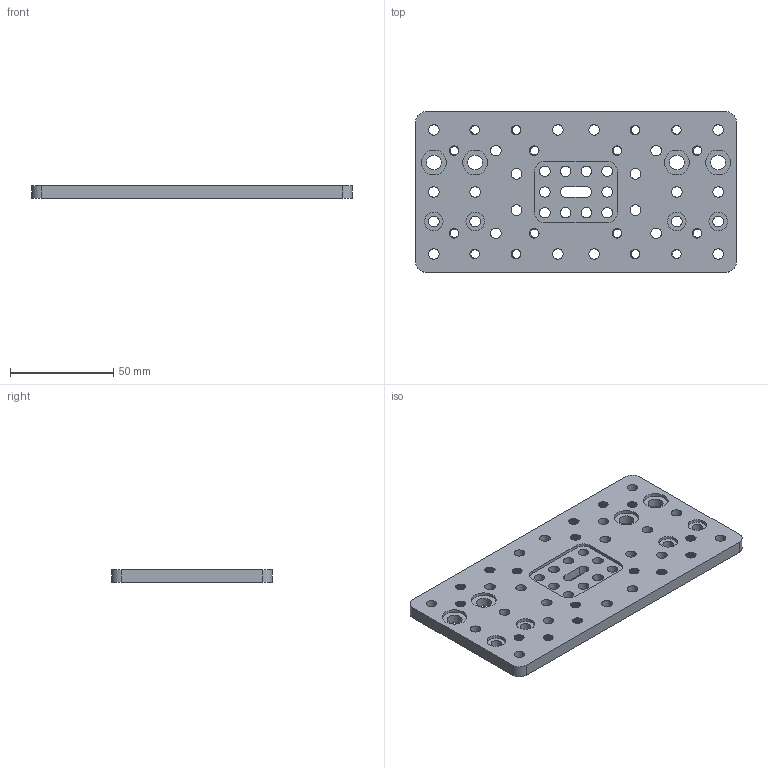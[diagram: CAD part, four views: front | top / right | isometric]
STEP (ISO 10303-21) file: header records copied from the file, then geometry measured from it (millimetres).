
FILE_DESCRIPTION(/* description */ ('STEP AP203'),/* implementation_level */ '2;1');
FILE_NAME(/* name */ 'C-Beam Gantry Plate - Large - 75x155mm.step',/* time_stamp */ '2025-05-29T16:07:17+02:00',/* author */ (''),/* organization */ (''),/* preprocessor_version */ 'ST-DEVELOPER v20.1',/* originating_system */ 'Autodesk Translation Framework v14.4.0.0',/* authorisation */ '');
FILE_SCHEMA (('AUTOMOTIVE_DESIGN { 1 0 10303 214 3 1 1 }'));
Length unit declared in the file: millimetre
Products named in the file (1): Double CB-Gantry Plate
Bounding box: 155.02 x 77.52 x 6 mm (x, y, z)
Volume: 62778.4 mm3; surface area: 30730.1 mm2
Topology: 1 solids, 1 shells, 381 faces, 1110 edges, 740 vertices
Faces by surface type: cylinder 328, bspline 32, plane 21
Full cylindrical faces by diameter (mm): 4.234 x64, 5.1 x34, 5.12 x48, 7.2 x4, 9 x4, 12 x4
Entity records: 31313 total; most frequent: CARTESIAN_POINT 22104, ORIENTED_EDGE 2220, DIRECTION 1378, EDGE_CURVE 1110, VERTEX_POINT 740, B_SPLINE_CURVE_WITH_KNOTS 608, AXIS2_PLACEMENT_3D 526, EDGE_LOOP 500
